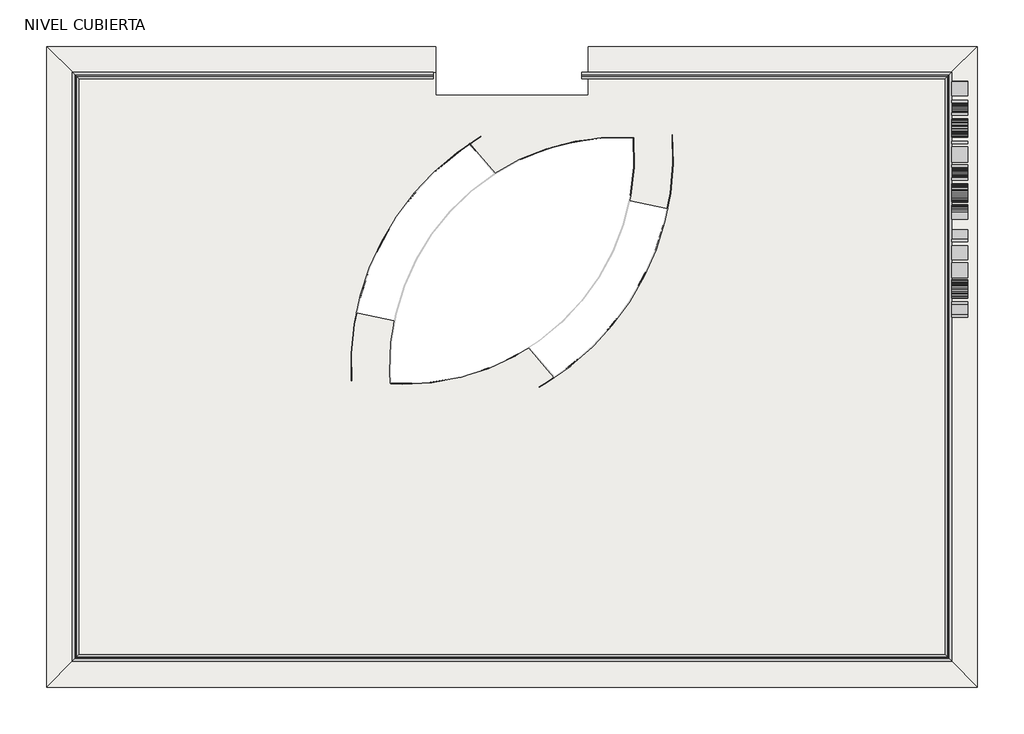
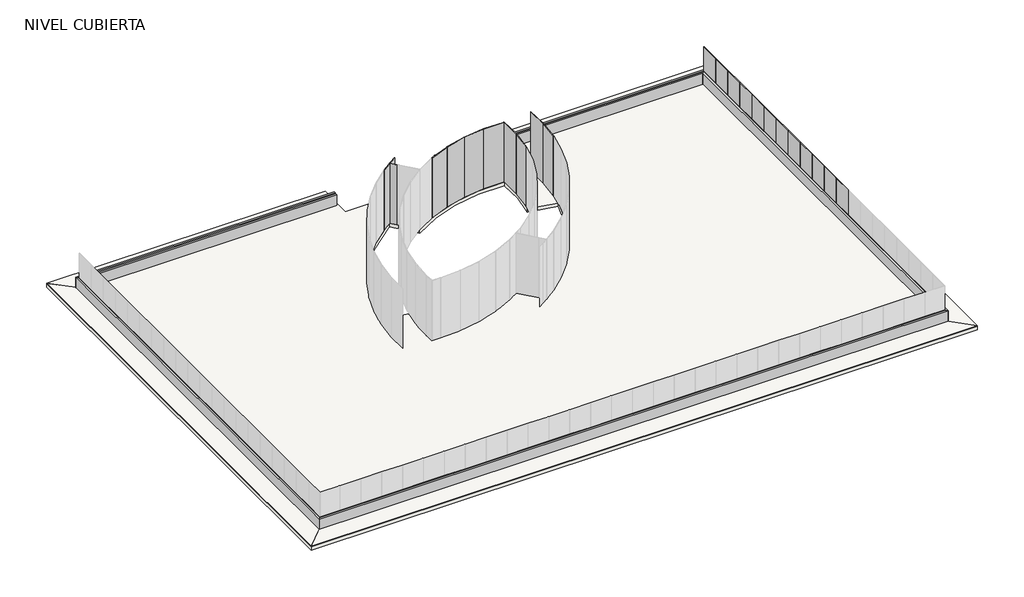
# One storey, part 2 of 2: 28 plates, 15 beams, 6 slabs, 1 proxy.
"""IFC4 building model written with IfcOpenShell, lengths in millimetres."""

from ifc_helpers import new_model, si_unit, point, frame, frame_2d, origin, place, context, project, spatial, polyline, circle_curve, trimmed, segment, composite_curve, outline, extrude, faceted_brep, transform, mapped, element, save
from components import system_panel_5ccbd7a3, system_panel_a79ef9cc, system_panel_8f9a12f6, system_panel_d16f8cfc

model = new_model("IFC4")

# Units and contexts
model_context = context("Model", 3, world=origin())
ifc_project = project(units=[si_unit("LENGTHUNIT", "METRE", prefix="MILLI")], contexts=[model_context])

# Site, building, storey
site = spatial("IfcSite", under=ifc_project)
building = spatial("IfcBuilding", under=site)
storey = spatial("IfcBuildingStorey", under=building, Name="NIVEL CUBIERTA", Elevation=13380.0)

# Beams
placement = place(None, origin())
element("IfcBeam", 1, ObjectType="H-A- VIGAS RECTANGULARES-CR : V. 20/50", at=placement, inside=storey, context=model_context, shape_type="Brep", body=[
    faceted_brep([(-20603.5934748, -7386.0860759, 13760.0), (-20603.5934748, -7386.0860759, 13860.0), (-20603.5934748, 10503.9139241, 13860.0), (-20603.5934748, 10503.9139241, 13760.0), (-20663.5934748, -7446.0860759, 13760.0), (-20663.5934748, 10563.9139241, 13760.0), (-20663.5934748, -7446.0860759, 13860.0), (-20663.5934748, 10563.9139241, 13860.0), (-20733.5934748, -7516.0860759, 13860.0), (-20733.5934748, 10633.9139241, 13860.0), (-20733.5934748, -7516.0860759, 13360.0), (-20733.5934748, 10633.9139241, 13360.0), (-20533.5934748, -7316.0860759, 13360.0), (-20533.5934748, 10433.9139241, 13360.0), (-20533.5934748, -7316.0860759, 13860.0), (-20533.5934748, 10433.9139241, 13860.0)], [[[0, 1, 2, 3]], [[4, 0, 3, 5]], [[6, 4, 5, 7]], [[8, 6, 7, 9]], [[10, 8, 9, 11]], [[12, 10, 11, 13]], [[14, 12, 13, 15]], [[1, 14, 15, 2]], [[1, 0, 4, 6, 8, 10, 12, 14]], [[2, 15, 13, 11, 9, 7, 5, 3]]]),
])
element("IfcBeam", 2, ObjectType="H-A- VIGAS RECTANGULARES-CR : V. 20/50", at=placement, inside=storey, context=model_context, shape_type="Brep", body=[
    faceted_brep([(-20663.5934748, -7446.0860759, 13860.0), (6296.4065252, -7446.0860759, 13860.0), (6296.4065252, -7446.0860759, 13760.0), (-20663.5934748, -7446.0860759, 13760.0), (6236.4065252, -7386.0860759, 13760.0), (-20603.5934748, -7386.0860759, 13760.0), (6236.4065252, -7386.0860759, 13860.0), (-20603.5934748, -7386.0860759, 13860.0), (6166.4065252, -7316.0860759, 13860.0), (-20533.5934748, -7316.0860759, 13860.0), (6166.4065252, -7316.0860759, 13360.0), (-20533.5934748, -7316.0860759, 13360.0), (6366.4065252, -7516.0860759, 13360.0), (-20733.5934748, -7516.0860759, 13360.0), (6366.4065252, -7516.0860759, 13860.0), (-20733.5934748, -7516.0860759, 13860.0)], [[[0, 1, 2, 3]], [[3, 2, 4, 5]], [[5, 4, 6, 7]], [[7, 6, 8, 9]], [[9, 8, 10, 11]], [[11, 10, 12, 13]], [[13, 12, 14, 15]], [[1, 0, 15, 14]], [[0, 3, 5, 7, 9, 11, 13, 15]], [[1, 14, 12, 10, 8, 6, 4, 2]]]),
])
element("IfcBeam", 3, ObjectType="H-A- VIGAS RECTANGULARES-CR : V. 20/50", at=placement, inside=storey, context=model_context, shape_type="Brep", body=[
    faceted_brep([(6296.4065252, -7446.0860759, 13860.0), (6296.4065252, 10563.9139241, 13860.0), (6296.4065252, 10563.9139241, 13760.0), (6296.4065252, -7446.0860759, 13760.0), (6236.4065252, 10503.9139241, 13760.0), (6236.4065252, -7386.0860759, 13760.0), (6236.4065252, 10503.9139241, 13860.0), (6236.4065252, -7386.0860759, 13860.0), (6166.4065252, 10433.9139241, 13860.0), (6166.4065252, -7316.0860759, 13860.0), (6166.4065252, 10433.9139241, 13360.0), (6166.4065252, -7316.0860759, 13360.0), (6366.4065252, 10633.9139241, 13360.0), (6366.4065252, -7516.0860759, 13360.0), (6366.4065252, 10633.9139241, 13860.0), (6366.4065252, -7516.0860759, 13860.0)], [[[0, 1, 2, 3]], [[3, 2, 4, 5]], [[5, 4, 6, 7]], [[7, 6, 8, 9]], [[9, 8, 10, 11]], [[11, 10, 12, 13]], [[13, 12, 14, 15]], [[1, 0, 15, 14]], [[0, 3, 5, 7, 9, 11, 13, 15]], [[1, 14, 12, 10, 8, 6, 4, 2]]]),
])
element("IfcBeam", 4, ObjectType="H-A- VIGAS RECTANGULARES-CR : V. 20/50", at=placement, inside=storey, context=model_context, shape_type="Brep", body=[
    faceted_brep([(-9608.5934748, 10563.9139241, 13860.0), (-9608.5934748, 10563.9139241, 13760.0), (-9608.5934748, 10503.9139241, 13760.0), (-9608.5934748, 10503.9139241, 13860.0), (-9608.5934748, 10433.9139241, 13860.0), (-9608.5934748, 10433.9139241, 13360.0), (-9608.5934748, 10633.9139241, 13360.0), (-9608.5934748, 10633.9139241, 13860.0), (-20663.5934748, 10563.9139241, 13860.0), (-20663.5934748, 10563.9139241, 13760.0), (-20603.5934748, 10503.9139241, 13760.0), (-20603.5934748, 10503.9139241, 13860.0), (-20533.5934748, 10433.9139241, 13860.0), (-20533.5934748, 10433.9139241, 13360.0), (-20733.5934748, 10633.9139241, 13360.0), (-20733.5934748, 10633.9139241, 13860.0)], [[[0, 1, 2, 3, 4, 5, 6, 7]], [[1, 0, 8, 9]], [[2, 1, 9, 10]], [[3, 2, 10, 11]], [[4, 3, 11, 12]], [[5, 4, 12, 13]], [[6, 5, 13, 14]], [[7, 6, 14, 15]], [[0, 7, 15, 8]], [[8, 15, 14, 13, 12, 11, 10, 9]]]),
])
element("IfcBeam", 5, ObjectType="H-A- VIGAS RECTANGULARES-CR : V. 20/50", at=placement, inside=storey, context=model_context, shape_type="Brep", body=[
    faceted_brep([(-5033.5934748, 10563.9139241, 13860.0), (-5033.5934748, 10633.9139241, 13860.0), (-5033.5934748, 10633.9139241, 13360.0), (-5033.5934748, 10433.9139241, 13360.0), (-5033.5934748, 10433.9139241, 13860.0), (-5033.5934748, 10503.9139241, 13860.0), (-5033.5934748, 10503.9139241, 13760.0), (-5033.5934748, 10563.9139241, 13760.0), (6296.4065252, 10563.9139241, 13760.0), (6296.4065252, 10563.9139241, 13860.0), (6236.4065252, 10503.9139241, 13760.0), (6236.4065252, 10503.9139241, 13860.0), (6166.4065252, 10433.9139241, 13860.0), (6166.4065252, 10433.9139241, 13360.0), (6366.4065252, 10633.9139241, 13360.0), (6366.4065252, 10633.9139241, 13860.0)], [[[0, 1, 2, 3, 4, 5, 6, 7]], [[0, 7, 8, 9]], [[7, 6, 10, 8]], [[6, 5, 11, 10]], [[5, 4, 12, 11]], [[4, 3, 13, 12]], [[3, 2, 14, 13]], [[2, 1, 15, 14]], [[1, 0, 9, 15]], [[9, 8, 10, 11, 12, 13, 14, 15]]]),
])
element("IfcBeam", 6, ObjectType="H-A- VIGAS RECTANGULARES : V. 40/30", at=placement, inside=storey, context=model_context, shape_type="SweptSolid", body=[
    extrude(outline(polyline([(-20378.5934748, 10421.2139241), (-19978.5934748, 10421.2139241), (-19978.5934748, 5233.9139241), (-20378.5934748, 5233.9139241), (-20378.5934748, 10421.2139241)])), frame((0.0, 0.0, 13060.0), z_axis=(0.0, 0.0, 1.0), x_axis=(1.0, 0.0, 0.0)), (0.0, 0.0, 1.0), 150.0),
])
element("IfcBeam", 7, ObjectType="H-A- VIGAS RECTANGULARES : V. 40/30", at=placement, inside=storey, context=model_context, shape_type="Brep", body=[
    faceted_brep([(5611.4065252, -7185.2015033, 13060.0), (6011.4065252, -7185.2015033, 13060.0), (6011.4065252, -7185.2015033, 13210.0), (5611.4065252, -7185.2015033, 13210.0), (6011.4065252, -166.0860759, 13060.0), (6011.4065252, -166.0860759, 13210.0), (5611.4065252, -6785.2015033, 13060.0), (5611.4065252, -166.0860759, 13060.0), (5611.4065252, -6785.2015033, 13210.0), (5611.4065252, -166.0860759, 13210.0)], [[[0, 1, 2, 3]], [[1, 4, 5, 2]], [[1, 0, 6, 7, 4]], [[7, 6, 0, 3, 8, 9]], [[3, 2, 5, 9, 8]], [[4, 7, 9, 5]]]),
])
element("IfcBeam", 8, ObjectType="H-A- VIGAS RECTANGULARES : V. 40/30", at=placement, inside=storey, context=model_context, shape_type="SweptSolid", body=[
    extrude(outline(polyline([(-1773.5934748, -6785.2015033), (5611.4065252, -6785.2015033), (5611.4065252, -7185.2015033), (-1773.5934748, -7185.2015033), (-1773.5934748, -6785.2015033)])), frame((0.0, 0.0, 13060.0), z_axis=(0.0, 0.0, 1.0), x_axis=(1.0, 0.0, 0.0)), (0.0, 0.0, 1.0), 150.0),
])
element("IfcBeam", 9, ObjectType="H-A- VIGAS RECTANGULARES : V. 40/30", at=placement, inside=storey, context=model_context, shape_type="Brep", body=[
    faceted_brep([(-20378.5934748, -7185.2015033, 13060.0), (-19978.5934748, -7185.2015033, 13060.0), (-19978.5934748, -7185.2015033, 13210.0), (-20378.5934748, -7185.2015033, 13210.0), (-20378.5934748, -166.0860759, 13060.0), (-20378.5934748, -166.0860759, 13210.0), (-19978.5934748, -166.0860759, 13060.0), (-19978.5934748, -6785.2015033, 13060.0), (-19978.5934748, -166.0860759, 13210.0), (-19978.5934748, -6785.2015033, 13210.0)], [[[0, 1, 2, 3]], [[4, 0, 3, 5]], [[1, 0, 4, 6, 7]], [[1, 7, 6, 8, 9, 2]], [[3, 2, 9, 8, 5]], [[6, 4, 5, 8]]]),
])
element("IfcBeam", 10, ObjectType="H-A- VIGAS RECTANGULARES : V. 40/30", at=placement, inside=storey, context=model_context, shape_type="SweptSolid", body=[
    extrude(outline(polyline([(-19978.5934748, -6785.2015033), (-12593.5934748, -6785.2015033), (-12593.5934748, -7185.2015033), (-19978.5934748, -7185.2015033), (-19978.5934748, -6785.2015033)])), frame((0.0, 0.0, 13060.0), z_axis=(0.0, 0.0, 1.0), x_axis=(1.0, 0.0, 0.0)), (0.0, 0.0, 1.0), 150.0),
])
element("IfcBeam", 11, ObjectType="H-A- VIGAS RECTANGULARES : V. 40/30", at=placement, inside=storey, context=model_context, shape_type="SweptSolid", body=[
    extrude(outline(polyline([(-7283.5934748, -6785.2015033), (-1773.5934748, -6785.2015033), (-1773.5934748, -7185.2015033), (-7283.5934748, -7185.2015033), (-7283.5934748, -6785.2015033)])), frame((0.0, 0.0, 13060.0), z_axis=(0.0, 0.0, 1.0), x_axis=(1.0, 0.0, 0.0)), (0.0, 0.0, 1.0), 150.0),
])
element("IfcBeam", 12, ObjectType="H-A- VIGAS RECTANGULARES : V. 40/30", at=placement, inside=storey, context=model_context, shape_type="SweptSolid", body=[
    extrude(outline(polyline([(-12593.5934748, -6785.2015033), (-7283.5934748, -6785.2015033), (-7283.5934748, -7185.2015033), (-12593.5934748, -7185.2015033), (-12593.5934748, -6785.2015033)])), frame((0.0, 0.0, 13060.0), z_axis=(0.0, 0.0, 1.0), x_axis=(1.0, 0.0, 0.0)), (0.0, 0.0, 1.0), 150.0),
])
element("IfcBeam", 13, ObjectType="H-A- VIGAS RECTANGULARES : V. 40/30", at=placement, inside=storey, context=model_context, shape_type="SweptSolid", body=[
    extrude(outline(polyline([(5611.4065252, 10421.2139241), (6011.4065252, 10421.2139241), (6011.4065252, 5233.9139241), (5611.4065252, 5233.9139241), (5611.4065252, 10421.2139241)])), frame((0.0, 0.0, 13060.0), z_axis=(0.0, 0.0, 1.0), x_axis=(1.0, 0.0, 0.0)), (0.0, 0.0, 1.0), 150.0),
])
element("IfcBeam", 14, ObjectType="H-A- VIGAS RECTANGULARES : V. 40/30", at=placement, inside=storey, context=model_context, shape_type="SweptSolid", body=[
    extrude(outline(polyline([(-20378.5934748, -166.0860759), (-20378.5934748, 5233.9139241), (-19978.5934748, 5233.9139241), (-19978.5934748, -166.0860759), (-20378.5934748, -166.0860759)])), frame((0.0, 0.0, 13060.0), z_axis=(0.0, 0.0, 1.0), x_axis=(1.0, 0.0, 0.0)), (0.0, 0.0, 1.0), 150.0),
])
element("IfcBeam", 15, ObjectType="H-A- VIGAS RECTANGULARES : V. 40/30", at=placement, inside=storey, context=model_context, shape_type="SweptSolid", body=[
    extrude(outline(polyline([(6011.4065252, 5233.9139241), (6011.4065252, -166.0860759), (5611.4065252, -166.0860759), (5611.4065252, 5233.9139241), (6011.4065252, 5233.9139241)])), frame((0.0, 0.0, 13060.0), z_axis=(0.0, 0.0, 1.0), x_axis=(1.0, 0.0, 0.0)), (0.0, 0.0, 1.0), 150.0),
])

# Proxy
element("IfcBuildingElementProxy", 16, Name="600mm Arial", ObjectType="600mm Arial", at=placement, inside=storey, context=model_context, shape_type="SweptSolid", body=[
    extrude(outline(polyline([(3095.5454979, 13541.4118799), (3095.5454979, 14144.1497408), (3170.8877305, 14144.1497408), (3170.8877305, 13899.2874848), (3491.0922191, 13899.2874848), (3491.0922191, 14144.1497408), (3566.4344518, 14144.1497408), (3566.4344518, 13541.4118799), (3491.0922191, 13541.4118799), (3491.0922191, 13823.9452522), (3170.8877305, 13823.9452522), (3170.8877305, 13541.4118799), (3095.5454979, 13541.4118799)])), frame((6366.4065252, 0.0, 0.0), z_axis=(1.0, 0.0, 0.0), x_axis=(0.0, 1.0, 0.0)), (0.0, 0.0, 1.0), 500.0),
    extrude(outline(polyline([(3670.0300216, 13834.8345592), (3675.0516108, 13905.5322817), (3690.1163785, 13968.1182061), (3715.2243247, 14022.5923325), (3731.5444897, 14046.7874715), (3750.3754493, 14068.954661), (3793.463628, 14105.9727867), (3842.3827363, 14132.4143051), (3897.1327743, 14148.2792162), (3957.7137418, 14153.5675199), (3998.2635347, 14151.0843164), (4036.7715826, 14143.634706), (4073.2378854, 14131.2186886), (4107.6624431, 14113.8362644), (4139.0795654, 14092.011665), (4166.5235623, 14066.2691224), (4189.9944336, 14036.6086365), (4209.4921793, 14003.0302074), (4224.8144644, 13966.2971902), (4235.7589538, 13927.17294), (4242.3256474, 13885.6574569), (4244.5145453, 13841.7507407), (4242.2106843, 13797.2646105), (4235.2991013, 13755.1881073), (4223.7797963, 13715.5212311), (4207.6527694, 13678.2639821), (4187.299698, 13644.4004444), (4163.1022597, 13614.9147025), (4135.0604547, 13589.8067563), (4103.1742827, 13569.0766059), (4068.6991412, 13552.8530099), (4032.8904275, 13541.2647271), (3995.7481416, 13534.3117574), (3957.2722834, 13531.9941008), (3916.0143177, 13534.5554792), (3877.0004321, 13542.2396144), (3840.2306267, 13555.0465063), (3805.7049014, 13572.9761551), (3774.3245672, 13595.3341833), (3746.990935, 13621.4262138), (3723.7040047, 13651.2522466), (3704.4637763, 13684.8122816), (3689.3990086, 13720.7589511), (3678.6384603, 13757.7448871), (3672.1821313, 13795.7700899), (3670.0300216, 13834.8345592)]), holes=[polyline([(3745.3722542, 13834.0987952), (3749.1384461, 13784.1496173), (3760.4370219, 13739.8106399), (3779.2679815, 13701.0818628), (3805.631325, 13667.9632862), (3837.6784453, 13641.4389944), (3873.5607354, 13622.4930716), (3913.2781953, 13611.125518), (3956.830825, 13607.3363334), (4001.1284158, 13611.1623062), (4041.3149252, 13622.6402244), (4077.3903534, 13641.7700882), (4109.3547002, 13668.5518974), (4135.5249057, 13702.3694498), (4154.2179096, 13742.606543), (4165.4337119, 13789.2631771), (4169.1723127, 13842.3393519), (4167.572026, 13876.8190919), (4162.7711659, 13909.0363577), (4154.7697325, 13938.9911491), (4143.5677258, 13966.6834663), (4129.2893059, 13991.7500258), (4112.0586329, 14013.827544), (4091.8757069, 14032.916021), (4068.740528, 14049.0154568), (4043.3704659, 14061.7947576), (4016.4828906, 14070.9228296), (3988.077802, 14076.3996728), (3958.1552002, 14078.2252872), (3916.1154852, 14074.7074157), (3877.1107967, 14064.1538009), (3841.1411346, 14046.564443), (3808.206499, 14021.939342), (3780.7165169, 13989.0920783), (3761.0808154, 13946.8362327), (3749.2993945, 13895.171805), (3745.3722542, 13834.0987952)])]), frame((6366.4065252, 0.0, 0.0), z_axis=(1.0, 0.0, 0.0), x_axis=(0.0, 1.0, 0.0)), (0.0, 0.0, 1.0), 500.0),
    extrude(outline(polyline([(4498.7945803, 13541.4118799), (4498.7945803, 14068.8075082), (4301.0212197, 14068.8075082), (4301.0212197, 14144.1497408), (4771.9101736, 14144.1497408), (4771.9101736, 14068.8075082), (4574.1368129, 14068.8075082), (4574.1368129, 13541.4118799), (4498.7945803, 13541.4118799)])), frame((6366.4065252, 0.0, 0.0), z_axis=(1.0, 0.0, 0.0), x_axis=(0.0, 1.0, 0.0)), (0.0, 0.0, 1.0), 500.0),
    extrude(outline(polyline([(4856.6701852, 13541.4118799), (4856.6701852, 14144.1497408), (5289.8880228, 14144.1497408), (5289.8880228, 14068.8075082), (4932.0124179, 14068.8075082), (4932.0124179, 13889.8697057), (5271.0524646, 13889.8697057), (5271.0524646, 13814.5274731), (4932.0124179, 13814.5274731), (4932.0124179, 13616.7541125), (5299.3058018, 13616.7541125), (5299.3058018, 13541.4118799), (4856.6701852, 13541.4118799)])), frame((6366.4065252, 0.0, 0.0), z_axis=(1.0, 0.0, 0.0), x_axis=(0.0, 1.0, 0.0)), (0.0, 0.0, 1.0), 500.0),
    extrude(outline(polyline([(5412.3191508, 13541.4118799), (5412.3191508, 14144.1497408), (5487.6613834, 14144.1497408), (5487.6613834, 13616.7541125), (5789.0303138, 13616.7541125), (5789.0303138, 13541.4118799), (5412.3191508, 13541.4118799)])), frame((6366.4065252, 0.0, 0.0), z_axis=(1.0, 0.0, 0.0), x_axis=(0.0, 1.0, 0.0)), (0.0, 0.0, 1.0), 500.0),
    extrude(outline(polyline([(6109.2348024, 13541.4118799), (6109.2348024, 14144.1497408), (6339.2346258, 14144.1497408), (6402.4919349, 14139.7167627), (6451.8800927, 14126.4178286), (6471.9572526, 14116.3608546), (6489.73515, 14103.9218446), (6505.213785, 14089.1007987), (6518.3931575, 14071.8977169), (6536.4377693, 14034.2266006), (6542.4526399, 13994.7896507), (6537.3942625, 13958.4980919), (6522.2191302, 13924.3770369), (6496.8168784, 13894.523413), (6461.0771426, 13871.0341476), (6483.8168484, 13861.340457), (6503.7698481, 13848.7404987), (6520.9361417, 13833.2342726), (6535.3157292, 13814.8217787), (6546.6786844, 13794.0640371), (6554.7950809, 13771.5220679), (6559.6649188, 13747.1958709), (6561.2881981, 13721.0854463), (6556.8552201, 13679.0549284), (6543.5562859, 13640.077831), (6523.7090523, 13606.9316632), (6499.6311757, 13582.3939341), (6470.1454338, 13564.6252338), (6434.0746042, 13551.7861521), (6390.2414644, 13544.0054479), (6337.4687922, 13541.4118799), (6109.2348024, 13541.4118799)]), holes=[polyline([(6184.577035, 13899.2874848), (6322.1649012, 13899.2874848), (6370.2838662, 13900.9061656), (6402.510329, 13905.7622079), (6430.6349075, 13916.9274265), (6450.8500231, 13933.6476631), (6463.0453113, 13955.6654005), (6467.1104073, 13982.7231213), (6463.3212228, 14008.9898957), (6451.9536691, 14031.8721558), (6433.5227812, 14049.7328267), (6408.5435937, 14060.9348335), (6370.2102898, 14066.8393395), (6311.7170526, 14068.8075082), (6184.577035, 14068.8075082), (6184.577035, 13899.2874848)]), polyline([(6184.577035, 13616.7541125), (6339.087473, 13616.7541125), (6395.0055363, 13619.6971685), (6420.959611, 13626.2270739), (6442.3151609, 13636.1047054), (6459.679191, 13650.2497682), (6473.6587068, 13669.581967), (6482.8741508, 13693.2367793), (6485.9459655, 13720.3496823), (6482.3407219, 13751.8403811), (6471.5249913, 13778.916496), (6452.6342508, 13800.0881048), (6424.8039779, 13813.8652855), (6385.3854221, 13821.4252605), (6331.7298331, 13823.9452522), (6184.577035, 13823.9452522), (6184.577035, 13616.7541125)])]), frame((6366.4065252, 0.0, 0.0), z_axis=(1.0, 0.0, 0.0), x_axis=(0.0, 1.0, 0.0)), (0.0, 0.0, 1.0), 500.0),
    extrude(outline(polyline([(6636.6304307, 13834.8345592), (6641.6520199, 13905.5322817), (6656.7167876, 13968.1182061), (6681.8247338, 14022.5923325), (6698.1448988, 14046.7874715), (6716.9758585, 14068.954661), (6760.0640371, 14105.9727867), (6808.9831454, 14132.4143051), (6863.7331834, 14148.2792162), (6924.3141509, 14153.5675199), (6964.8639439, 14151.0843164), (7003.3719917, 14143.634706), (7039.8382945, 14131.2186886), (7074.2628522, 14113.8362644), (7105.6799746, 14092.011665), (7133.1239714, 14066.2691224), (7156.5948427, 14036.6086365), (7176.0925884, 14003.0302074), (7191.4148735, 13966.2971902), (7202.3593629, 13927.17294), (7208.9260565, 13885.6574569), (7211.1149544, 13841.7507407), (7208.8110934, 13797.2646105), (7201.8995104, 13755.1881073), (7190.3802054, 13715.5212311), (7174.2531785, 13678.2639821), (7153.9001071, 13644.4004444), (7129.7026688, 13614.9147025), (7101.6608638, 13589.8067563), (7069.7746918, 13569.0766059), (7035.2995504, 13552.8530099), (6999.4908366, 13541.2647271), (6962.3485507, 13534.3117574), (6923.8726925, 13531.9941008), (6882.6147268, 13534.5554792), (6843.6008412, 13542.2396144), (6806.8310358, 13555.0465063), (6772.3053105, 13572.9761551), (6740.9249763, 13595.3341833), (6713.5913441, 13621.4262138), (6690.3044138, 13651.2522466), (6671.0641855, 13684.8122816), (6655.9994178, 13720.7589511), (6645.2388694, 13757.7448871), (6638.7825404, 13795.7700899), (6636.6304307, 13834.8345592)]), holes=[polyline([(6711.9726633, 13834.0987952), (6715.7388552, 13784.1496173), (6727.037431, 13739.8106399), (6745.8683906, 13701.0818628), (6772.2317341, 13667.9632862), (6804.2788544, 13641.4389944), (6840.1611445, 13622.4930716), (6879.8786044, 13611.125518), (6923.4312341, 13607.3363334), (6967.7288249, 13611.1623062), (7007.9153343, 13622.6402244), (7043.9907625, 13641.7700882), (7075.9551093, 13668.5518974), (7102.1253148, 13702.3694498), (7120.8183187, 13742.606543), (7132.034121, 13789.2631771), (7135.7727218, 13842.3393519), (7134.1724351, 13876.8190919), (7129.371575, 13909.0363577), (7121.3701416, 13938.9911491), (7110.1681349, 13966.6834663), (7095.889715, 13991.7500258), (7078.659042, 14013.827544), (7058.476116, 14032.916021), (7035.3409371, 14049.0154568), (7009.970875, 14061.7947576), (6983.0832997, 14070.9228296), (6954.6782111, 14076.3996728), (6924.7556093, 14078.2252872), (6882.7158943, 14074.7074157), (6843.7112058, 14064.1538009), (6807.7415437, 14046.564443), (6774.8069081, 14021.939342), (6747.316926, 13989.0920783), (6727.6812245, 13946.8362327), (6715.8998036, 13895.171805), (6711.9726633, 13834.0987952)])]), frame((6366.4065252, 0.0, 0.0), z_axis=(1.0, 0.0, 0.0), x_axis=(0.0, 1.0, 0.0)), (0.0, 0.0, 1.0), 500.0),
    extrude(outline(polyline([(7710.2572454, 14144.1497408), (7785.599478, 14144.1497408), (7785.599478, 13796.4276789), (7780.4859183, 13714.9969993), (7774.0939686, 13681.3036071), (7765.1452391, 13652.2915132), (7752.8671775, 13626.8616703), (7736.4872317, 13603.9150309), (7716.0054016, 13583.4515949), (7691.4216873, 13565.4713624), (7662.7084976, 13550.8250604), (7629.8382413, 13540.3634162), (7592.8109185, 13534.0864297), (7551.6265291, 13531.9941008), (7511.4584138, 13533.8151167), (7475.1254682, 13539.2781643), (7442.6276925, 13548.3832437), (7413.9650865, 13561.1303548), (7389.1330518, 13577.3309582), (7368.1269899, 13596.7965143), (7350.9469007, 13619.527023), (7337.5927843, 13645.5224845), (7327.5817955, 13675.6750125), (7320.4310892, 13710.876721), (7316.1406655, 13751.1276098), (7314.7105242, 13796.4276789), (7314.7105242, 14144.1497408), (7390.0527568, 14144.1497408), (7390.0527568, 13799.0764293), (7393.768365, 13731.3677481), (7404.9151894, 13684.2236704), (7413.679978, 13666.8458447), (7425.111911, 13651.5741433), (7439.2109884, 13638.4085664), (7455.9772104, 13627.349114), (7496.2235006, 13612.3395286), (7544.5631948, 13607.3363334), (7586.087875, 13609.8103398), (7621.1930144, 13617.2323591), (7649.878613, 13629.6023912), (7672.1446707, 13646.9204361), (7688.8189222, 13671.2742242), (7700.7291018, 13704.7514857), (7707.8752095, 13747.3522208), (7710.2572454, 13799.0764293), (7710.2572454, 14144.1497408)])), frame((6366.4065252, 0.0, 0.0), z_axis=(1.0, 0.0, 0.0), x_axis=(0.0, 1.0, 0.0)), (0.0, 0.0, 1.0), 500.0),
    extrude(outline(polyline([(8068.1328503, 13541.4118799), (8068.1328503, 14068.8075082), (7870.3594897, 14068.8075082), (7870.3594897, 14144.1497408), (8341.2484436, 14144.1497408), (8341.2484436, 14068.8075082), (8143.4750829, 14068.8075082), (8143.4750829, 13541.4118799), (8068.1328503, 13541.4118799)])), frame((6366.4065252, 0.0, 0.0), z_axis=(1.0, 0.0, 0.0), x_axis=(0.0, 1.0, 0.0)), (0.0, 0.0, 1.0), 500.0),
    extrude(outline(polyline([(6866.4065252, 8510.7684669), (6866.4065252, 8435.4262343), (6366.4065252, 8435.4262343), (6366.4065252, 8510.7684669), (6866.4065252, 8510.7684669)])), frame((0.0, 0.0, 13541.4118799), z_axis=(0.0, 0.0, 1.0), x_axis=(1.0, 0.0, 0.0)), (0.0, 0.0, 1.0), 602.7378609),
    extrude(outline(polyline([(9114.2420918, 13613.6639037), (9162.9128798, 13576.471034), (9207.6841186, 13550.829659), (9187.3770325, 13495.6473597), (9125.2417635, 13524.4525199), (9063.3272237, 13566.13355), (9029.3441244, 13551.197541), (8993.6135856, 13540.5289631), (8956.1356073, 13534.1278164), (8916.9101896, 13531.9941008), (8877.4456486, 13534.4543116), (8839.8389116, 13541.8349442), (8804.0899787, 13554.1359984), (8770.1988499, 13571.3574743), (8739.135814, 13593.0349209), (8711.8711596, 13618.7038871), (8688.4048868, 13648.3643729), (8668.7369957, 13682.0163784), (8653.1893828, 13718.7907824), (8642.0839451, 13757.8184635), (8635.4206825, 13799.0994219), (8633.1995949, 13842.6336575), (8635.4160839, 13886.0759226), (8642.065551, 13927.5224279), (8653.1479961, 13966.9731734), (8668.6634193, 14004.428159), (8688.2715296, 14038.7101624), (8711.6320363, 14068.6419613), (8738.7449393, 14094.2235555), (8769.6102387, 14115.4549452), (8803.3266236, 14132.1291966), (8838.992783, 14144.0393762), (8876.608717, 14151.1854839), (8916.1744256, 14153.5675199), (8956.0758265, 14151.1303016), (8993.9630735, 14143.818647), (9029.8361666, 14131.6325559), (9063.6951057, 14114.5720284), (9094.5925948, 14093.124508), (9121.5813376, 14067.7774386), (9144.6613343, 14038.53082), (9163.8325848, 14005.3846522), (9178.8973525, 13969.1666698), (9189.6579008, 13930.7046072), (9196.1142298, 13889.9984644), (9198.2663395, 13847.0482415), (9193.0424152, 13777.4817562), (9177.3706422, 13715.3464872), (9165.5892213, 13687.0839529), (9151.1406559, 13660.7160109), (9134.0249461, 13636.2426612), (9114.2420918, 13613.6639037)]), holes=[polyline([(8937.6587341, 13713.8749592), (8970.8600842, 13703.0684256), (9001.0080137, 13689.9258413), (9028.1025227, 13674.4472064), (9052.143611, 13656.6325208), (9083.110078, 13691.5813103), (9105.2289829, 13734.3291982), (9118.5003259, 13784.8761843), (9122.9241069, 13843.2222687), (9121.3606084, 13877.4950751), (9116.670113, 13909.5329984), (9108.8526206, 13939.3360385), (9097.9081312, 13966.9041955), (9083.951608, 13991.8741859), (9067.0980141, 14013.8827263), (9047.3473495, 14032.9298166), (9024.6996142, 14049.0154568), (8999.872178, 14061.7947576), (8973.582411, 14070.9228296), (8945.830313, 14076.3996728), (8916.615884, 14078.2252872), (8873.647267, 14074.5326717), (8834.5046227, 14063.4548251), (8799.1879512, 14044.9917475), (8767.6972524, 14019.1434388), (8741.816754, 13985.9650814), (8723.3306837, 13945.5118575), (8712.2390416, 13897.7837671), (8708.5418275, 13842.7808103), (8712.1976549, 13789.2125933), (8723.1651368, 13742.2570551), (8741.4442735, 13701.9141959), (8767.0350648, 13668.1840154), (8798.3096329, 13641.5631545), (8833.6401, 13622.5482539), (8873.0264661, 13611.1393135), (8916.4687312, 13607.3363334), (8958.2969141, 13611.1990944), (8997.549923, 13622.7873772), (8958.9591017, 13642.836946), (8918.2345648, 13656.1910624), (8937.6587341, 13713.8749592)])]), frame((6366.4065252, 0.0, 0.0), z_axis=(1.0, 0.0, 0.0), x_axis=(0.0, 1.0, 0.0)), (0.0, 0.0, 1.0), 500.0),
    extrude(outline(polyline([(9706.8264097, 14144.1497408), (9782.1686423, 14144.1497408), (9782.1686423, 13796.4276789), (9777.0550825, 13714.9969993), (9770.6631329, 13681.3036071), (9761.7144033, 13652.2915132), (9749.4363417, 13626.8616703), (9733.0563959, 13603.9150309), (9712.5745658, 13583.4515949), (9687.9908515, 13565.4713624), (9659.2776618, 13550.8250604), (9626.4074055, 13540.3634162), (9589.3800827, 13534.0864297), (9548.1956933, 13531.9941008), (9508.027578, 13533.8151167), (9471.6946324, 13539.2781643), (9439.1968567, 13548.3832437), (9410.5342507, 13561.1303548), (9385.7022161, 13577.3309582), (9364.6961541, 13596.7965143), (9347.516065, 13619.527023), (9334.1619485, 13645.5224845), (9324.1509597, 13675.6750125), (9317.0002535, 13710.876721), (9312.7098297, 13751.1276098), (9311.2796884, 13796.4276789), (9311.2796884, 14144.1497408), (9386.6219211, 14144.1497408), (9386.6219211, 13799.0764293), (9390.3375292, 13731.3677481), (9401.4843537, 13684.2236704), (9410.2491422, 13666.8458447), (9421.6810752, 13651.5741433), (9435.7801527, 13638.4085664), (9452.5463746, 13627.349114), (9492.7926649, 13612.3395286), (9541.132359, 13607.3363334), (9582.6570392, 13609.8103398), (9617.7621786, 13617.2323591), (9646.4477772, 13629.6023912), (9668.713835, 13646.9204361), (9685.3880864, 13671.2742242), (9697.298266, 13704.7514857), (9704.4443737, 13747.3522208), (9706.8264097, 13799.0764293), (9706.8264097, 14144.1497408)])), frame((6366.4065252, 0.0, 0.0), z_axis=(1.0, 0.0, 0.0), x_axis=(0.0, 1.0, 0.0)), (0.0, 0.0, 1.0), 500.0),
    extrude(outline(polyline([(9914.0175493, 13541.4118799), (9914.0175493, 14144.1497408), (10347.2353869, 14144.1497408), (10347.2353869, 14068.8075082), (9989.3597819, 14068.8075082), (9989.3597819, 13889.8697057), (10328.3998287, 13889.8697057), (10328.3998287, 13814.5274731), (9989.3597819, 13814.5274731), (9989.3597819, 13616.7541125), (10356.6531659, 13616.7541125), (10356.6531659, 13541.4118799), (9914.0175493, 13541.4118799)])), frame((6366.4065252, 0.0, 0.0), z_axis=(1.0, 0.0, 0.0), x_axis=(0.0, 1.0, 0.0)), (0.0, 0.0, 1.0), 500.0),
])

# Plates
system_panel_shape = system_panel_5ccbd7a3(model_context)
element("IfcPlate", 17, ObjectType="System Panel : CR-BARANDA", at=placement, inside=storey, context=model_context, shape_type="MappedRepresentation", body=[
    mapped(system_panel_shape, transform((6266.4065252, 10083.9139239, 13880.0), x_axis=(0.0, -1.0, 0.0), y_axis=(1.0, 0.0, 0.0), z_axis=(0.0, 0.0, 1.0))),
])
element("IfcPlate", 18, ObjectType="System Panel : CR-BARANDA", at=placement, inside=storey, context=model_context, shape_type="MappedRepresentation", body=[
    mapped(system_panel_shape, transform((6266.4065252, 9183.9139237, 13880.0), x_axis=(0.0, -1.0, 0.0), y_axis=(1.0, 0.0, 0.0), z_axis=(0.0, 0.0, 1.0))),
])
element("IfcPlate", 19, ObjectType="System Panel : CR-BARANDA", at=placement, inside=storey, context=model_context, shape_type="MappedRepresentation", body=[
    mapped(system_panel_shape, transform((6266.4065252, 8283.9139237, 13880.0), x_axis=(0.0, -1.0, 0.0), y_axis=(1.0, 0.0, 0.0), z_axis=(0.0, 0.0, 1.0))),
])
element("IfcPlate", 20, ObjectType="System Panel : CR-BARANDA", at=placement, inside=storey, context=model_context, shape_type="MappedRepresentation", body=[
    mapped(system_panel_shape, transform((6266.4065252, 7383.9139237, 13880.0), x_axis=(0.0, -1.0, 0.0), y_axis=(1.0, 0.0, 0.0), z_axis=(0.0, 0.0, 1.0))),
])
element("IfcPlate", 21, ObjectType="System Panel : CR-BARANDA", at=placement, inside=storey, context=model_context, shape_type="MappedRepresentation", body=[
    mapped(system_panel_shape, transform((6266.4065252, 6483.9139237, 13880.0), x_axis=(0.0, -1.0, 0.0), y_axis=(1.0, 0.0, 0.0), z_axis=(0.0, 0.0, 1.0))),
])
element("IfcPlate", 22, ObjectType="System Panel : CR-BARANDA", at=placement, inside=storey, context=model_context, shape_type="MappedRepresentation", body=[
    mapped(system_panel_shape, transform((6266.4065252, 5583.9139237, 13880.0), x_axis=(0.0, -1.0, 0.0), y_axis=(1.0, 0.0, 0.0), z_axis=(0.0, 0.0, 1.0))),
])
element("IfcPlate", 23, ObjectType="System Panel : CR-BARANDA", at=placement, inside=storey, context=model_context, shape_type="MappedRepresentation", body=[
    mapped(system_panel_shape, transform((6266.4065252, 4683.9139237, 13880.0), x_axis=(0.0, -1.0, 0.0), y_axis=(1.0, 0.0, 0.0), z_axis=(0.0, 0.0, 1.0))),
])
element("IfcPlate", 24, ObjectType="System Panel : CR-BARANDA", at=placement, inside=storey, context=model_context, shape_type="MappedRepresentation", body=[
    mapped(system_panel_shape, transform((6266.4065252, 3783.9139237, 13880.0), x_axis=(0.0, -1.0, 0.0), y_axis=(1.0, 0.0, 0.0), z_axis=(0.0, 0.0, 1.0))),
])
element("IfcPlate", 25, ObjectType="System Panel : CR-BARANDA", at=placement, inside=storey, context=model_context, shape_type="MappedRepresentation", body=[
    mapped(system_panel_shape, transform((6266.4065252, 2883.9139237, 13880.0), x_axis=(0.0, -1.0, 0.0), y_axis=(1.0, 0.0, 0.0), z_axis=(0.0, 0.0, 1.0))),
])
element("IfcPlate", 26, ObjectType="System Panel : CR-BARANDA", at=placement, inside=storey, context=model_context, shape_type="MappedRepresentation", body=[
    mapped(system_panel_shape, transform((6266.4065252, 1983.9139237, 13880.0), x_axis=(0.0, -1.0, 0.0), y_axis=(1.0, 0.0, 0.0), z_axis=(0.0, 0.0, 1.0))),
])
element("IfcPlate", 27, ObjectType="System Panel : CR-BARANDA", at=placement, inside=storey, context=model_context, shape_type="MappedRepresentation", body=[
    mapped(system_panel_shape, transform((6266.4065252, 1083.9139237, 13880.0), x_axis=(0.0, -1.0, 0.0), y_axis=(1.0, 0.0, 0.0), z_axis=(0.0, 0.0, 1.0))),
])
element("IfcPlate", 28, ObjectType="System Panel : CR-BARANDA", at=placement, inside=storey, context=model_context, shape_type="MappedRepresentation", body=[
    mapped(system_panel_shape, transform((6266.4065252, 183.9139237, 13880.0), x_axis=(0.0, -1.0, 0.0), y_axis=(1.0, 0.0, 0.0), z_axis=(0.0, 0.0, 1.0))),
])
system_panel_2_shape = system_panel_a79ef9cc(model_context)
element("IfcPlate", 29, ObjectType="System Panel : CR-BARANDA", at=placement, inside=storey, context=model_context, shape_type="MappedRepresentation", body=[
    mapped(system_panel_2_shape, transform((-8389.9387294, 8323.370618, 13380.0), x_axis=(-0.6464171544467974, 0.7629841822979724, 0.0), y_axis=(-0.7629841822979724, -0.6464171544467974, 0.0), z_axis=(0.0, 0.0, 1.0))),
])
system_panel_3_shape = system_panel_8f9a12f6(model_context)
element("IfcPlate", 30, ObjectType="System Panel : CR-BARANDA", at=placement, inside=storey, context=model_context, shape_type="MappedRepresentation", body=[
    mapped(system_panel_3_shape, transform((-3889.1158289, 8621.3139577, 13380.0), x_axis=(-0.9999985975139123, 0.0016748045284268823, 0.0), y_axis=(-0.0016748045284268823, -0.9999985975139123, 0.0), z_axis=(0.0, 0.0, 1.0))),
])
element("IfcPlate", 31, ObjectType="System Panel : CR-BARANDA", at=placement, inside=storey, context=model_context, shape_type="MappedRepresentation", body=[
    mapped(system_panel_3_shape, transform((-3889.1158289, 8621.3139577, 13380.0), x_axis=(-0.9999985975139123, 0.0016748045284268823, 0.0), y_axis=(-0.0016748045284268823, -0.9999985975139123, 0.0), z_axis=(0.0, 0.0, 1.0))),
])
element("IfcPlate", 32, ObjectType="System Panel : CR-BARANDA", at=placement, inside=storey, context=model_context, shape_type="MappedRepresentation", body=[
    mapped(system_panel_3_shape, transform((-8516.6647466, 8408.3702848, 13380.0), x_axis=(-0.8281799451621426, -0.5604622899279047, 0.0), y_axis=(0.5604622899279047, -0.8281799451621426, 0.0), z_axis=(0.0, 0.0, 1.0))),
])
system_panel_4_shape = system_panel_d16f8cfc(model_context)
element("IfcPlate", 33, ObjectType="System Panel : CR-BARANDA", at=placement, inside=storey, context=model_context, shape_type="MappedRepresentation", body=[
    mapped(system_panel_4_shape, transform((-4785.5416487, 8565.4687941, 13380.0), x_axis=(-0.9920587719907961, -0.1257751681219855, 0.0), y_axis=(0.1257751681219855, -0.9920587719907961, 0.0), z_axis=(0.0, 0.0, 1.0))),
])
element("IfcPlate", 34, ObjectType="System Panel : CR-BARANDA", at=placement, inside=storey, context=model_context, shape_type="MappedRepresentation", body=[
    mapped(system_panel_4_shape, transform((-5667.541953, 8395.8415861, 13380.0), x_axis=(-0.9679419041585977, -0.25117418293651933, 0.0), y_axis=(0.25117418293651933, -0.9679419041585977, 0.0), z_axis=(0.0, 0.0, 1.0))),
])
element("IfcPlate", 35, ObjectType="System Panel : CR-BARANDA", at=placement, inside=storey, context=model_context, shape_type="MappedRepresentation", body=[
    mapped(system_panel_4_shape, transform((-6520.7343753, 8115.1983662, 13380.0), x_axis=(-0.9280412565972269, -0.37247741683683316, 0.0), y_axis=(0.37247741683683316, -0.9280412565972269, 0.0), z_axis=(0.0, 0.0, 1.0))),
])
element("IfcPlate", 36, ObjectType="System Panel : CR-BARANDA", at=placement, inside=storey, context=model_context, shape_type="MappedRepresentation", body=[
    mapped(system_panel_4_shape, transform((-4785.5416487, 8565.4687941, 13380.0), x_axis=(-0.9920587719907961, -0.1257751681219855, 0.0), y_axis=(0.1257751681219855, -0.9920587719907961, 0.0), z_axis=(0.0, 0.0, 1.0))),
])
element("IfcPlate", 37, ObjectType="System Panel : CR-BARANDA", at=placement, inside=storey, context=model_context, shape_type="MappedRepresentation", body=[
    mapped(system_panel_4_shape, transform((-5667.541953, 8395.8415861, 13380.0), x_axis=(-0.9679419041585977, -0.25117418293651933, 0.0), y_axis=(0.25117418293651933, -0.9679419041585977, 0.0), z_axis=(0.0, 0.0, 1.0))),
])
element("IfcPlate", 38, ObjectType="System Panel : CR-BARANDA", at=placement, inside=storey, context=model_context, shape_type="MappedRepresentation", body=[
    mapped(system_panel_4_shape, transform((-6520.7343753, 8115.1983662, 13380.0), x_axis=(-0.9280412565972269, -0.37247741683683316, 0.0), y_axis=(0.37247741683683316, -0.9280412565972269, 0.0), z_axis=(0.0, 0.0, 1.0))),
])
element("IfcPlate", 39, ObjectType="System Panel : CR-BARANDA", at=placement, inside=storey, context=model_context, shape_type="MappedRepresentation", body=[
    mapped(system_panel_3_shape, transform((-3433.3235969, 8170.5975795, 13380.0), x_axis=(0.012873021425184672, -0.9999171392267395, 0.0), y_axis=(0.9999171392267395, 0.012873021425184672, 0.0), z_axis=(0.0, 0.0, 1.0))),
])
element("IfcPlate", 40, ObjectType="System Panel : CR-BARANDA", at=placement, inside=storey, context=model_context, shape_type="MappedRepresentation", body=[
    mapped(system_panel_3_shape, transform((-3433.3235969, 8170.5975795, 13380.0), x_axis=(0.012873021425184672, -0.9999171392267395, 0.0), y_axis=(0.9999171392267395, 0.012873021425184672, 0.0), z_axis=(0.0, 0.0, 1.0))),
])
element("IfcPlate", 41, ObjectType="System Panel : CR-BARANDA", at=placement, inside=storey, context=model_context, shape_type="MappedRepresentation", body=[
    mapped(system_panel_3_shape, transform((-2232.6706866, 8262.698955, 13380.0), x_axis=(0.022177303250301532, -0.9997540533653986, 0.0), y_axis=(0.9997540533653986, 0.022177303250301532, 0.0), z_axis=(0.0, 0.0, 1.0))),
])
element("IfcPlate", 42, ObjectType="System Panel : CR-BARANDA", at=placement, inside=storey, context=model_context, shape_type="MappedRepresentation", body=[
    mapped(system_panel_4_shape, transform((-3479.1267798, 7273.6025956, 13380.0), x_axis=(-0.11465787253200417, -0.9934050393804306, 0.0), y_axis=(0.9934050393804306, -0.11465787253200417, 0.0), z_axis=(0.0, 0.0, 1.0))),
])
element("IfcPlate", 43, ObjectType="System Panel : CR-BARANDA", at=placement, inside=storey, context=model_context, shape_type="MappedRepresentation", body=[
    mapped(system_panel_4_shape, transform((-3479.1267798, 7273.6025956, 13380.0), x_axis=(-0.11465787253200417, -0.9934050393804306, 0.0), y_axis=(0.9934050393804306, -0.11465787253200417, 0.0), z_axis=(0.0, 0.0, 1.0))),
])
element("IfcPlate", 44, ObjectType="System Panel : CR-BARANDA", at=placement, inside=storey, context=model_context, shape_type="MappedRepresentation", body=[
    mapped(system_panel_4_shape, transform((-2261.7885544, 7364.5113184, 13380.0), x_axis=(-0.08688367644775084, -0.9962184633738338, 0.0), y_axis=(0.9962184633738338, -0.08688367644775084, 0.0), z_axis=(0.0, 0.0, 1.0))),
])

# Slabs
element("IfcSlab", 45, ObjectType="LOSA-150mm", at=placement, inside=storey, context=model_context, shape_type="SweptSolid", body=[
    extrude(outline(polyline([(7166.4065252, 11433.9139241), (7166.4065252, -8316.0860759), (-21533.5934748, -8316.0860759), (-21533.5934748, 11433.9139241), (-9533.5934748, 11433.9139241), (-9533.5934748, 9933.9139241), (-4833.5934748, 9933.9139241), (-4833.5934748, 11433.9139241), (7166.4065252, 11433.9139241)]), holes=[composite_curve([segment(trimmed(circle_curve(frame_2d((-10466.2912985, 8080.0545331)), 7047.9310964), [point((-10928.0704932, 1047.2675525))], [point((-6658.8976812, 2149.0270857))], True, "CARTESIAN"), True, "CONTINUOUS"), segment(polyline([(-6658.8976812, 2149.0270857), (-5877.3741986, 1226.5731389)]), True, "CONTINUOUS"), segment(trimmed(circle_curve(frame_2d((-10466.2912985, 8080.0545331)), 8247.9310964), [point((-5877.3741986, 1226.5731389))], [point((-2383.6094642, 6437.3063064))], True, "CARTESIAN"), True, "CONTINUOUS"), segment(polyline([(-2383.6094642, 6437.3063064), (-3558.4829159, 6681.6568471)]), True, "CONTINUOUS"), segment(trimmed(circle_curve(frame_2d((-10466.2912985, 8080.0545331)), 7047.9310964), [point((-3558.4829159, 6681.6568471))], [point((-3439.1164565, 8620.5602956))], True, "CARTESIAN"), True, "CONTINUOUS"), segment(trimmed(circle_curve(frame_2d((-3900.8956512, 1587.773315)), 7047.9310964), [point((-3439.1164565, 8620.5602956))], [point((-7708.2892685, 7518.8007624))], True, "CARTESIAN"), True, "CONTINUOUS"), segment(polyline([(-7708.2892685, 7518.8007624), (-8489.8127511, 8441.2547092)]), True, "CONTINUOUS"), segment(trimmed(circle_curve(frame_2d((-3900.8956512, 1587.773315)), 8247.9310964), [point((-8489.8127511, 8441.2547092))], [point((-11983.5774855, 3230.5215417))], True, "CARTESIAN"), True, "CONTINUOUS"), segment(polyline([(-11983.5774855, 3230.5215417), (-10808.7040338, 2986.171001)]), True, "CONTINUOUS"), segment(trimmed(circle_curve(frame_2d((-3900.8956512, 1587.773315)), 7047.9310964), [point((-10808.7040338, 2986.171001))], [point((-10928.0704932, 1047.2675525))], True, "CARTESIAN"), True, "CONTINUOUS")], self_intersect=False)]), frame((0.0, 0.0, 13210.0), z_axis=(0.0, 0.0, 1.0), x_axis=(1.0, 0.0, 0.0)), (0.0, 0.0, 1.0), 150.0),
])
element("IfcSlab", 46, ObjectType="PAV-PORCELANATO EXTERIOR", at=placement, inside=storey, context=model_context, shape_type="Brep", body=[
    faceted_brep([(-20733.5934748, 793.5361565, 13367.999), (-20733.5934748, -7516.0860759, 13367.999), (-21533.5934748, -8316.0860759, 13359.999), (-21533.5934748, 11433.9139241, 13359.999), (-20733.5934748, 10658.1563483, 13367.999), (-20733.5934748, 793.5361565, 13388.0), (-20733.5934748, 10658.1563483, 13388.0), (-21533.5934748, 11433.9139241, 13380.0), (-21533.5934748, -8316.0860759, 13380.0), (-20733.5934748, -7516.0860759, 13388.0)], [[[0, 1, 2, 3, 4]], [[5, 6, 7, 8, 9]], [[1, 0, 5, 9]], [[2, 1, 9, 8]], [[3, 2, 8, 7]], [[4, 3, 7, 6]], [[0, 4, 6, 5]]]),
])
element("IfcSlab", 47, ObjectType="PAV-PORCELANATO EXTERIOR", at=placement, inside=storey, context=model_context, shape_type="Brep", body=[
    faceted_brep([(7166.4065252, 11433.9139241, 13359.999), (6341.4065252, 10633.9139241, 13367.999), (-4833.5934748, 10633.9139241, 13367.999), (-4833.5934748, 11433.9139241, 13359.999), (6341.4065252, 10633.9139241, 13388.0), (7166.4065252, 11433.9139241, 13380.0), (-4833.5934748, 11433.9139241, 13380.0), (-4833.5934748, 10633.9139241, 13388.0)], [[[0, 1, 2, 3]], [[4, 5, 6, 7]], [[5, 0, 3, 6]], [[1, 4, 7, 2]], [[1, 0, 5, 4]], [[3, 2, 7, 6]]]),
])
element("IfcSlab", 48, ObjectType="PAV-PORCELANATO EXTERIOR", at=placement, inside=storey, context=model_context, shape_type="Brep", body=[
    faceted_brep([(6366.4065252, 793.5361565, 13367.999), (6366.4065252, 10658.1563483, 13367.999), (7166.4065252, 11433.9139241, 13359.999), (7166.4065252, -8316.0860759, 13359.999), (6366.4065252, -7516.0860759, 13367.999), (6366.4065252, 793.5361565, 13388.0), (6366.4065252, -7516.0860759, 13388.0), (7166.4065252, -8316.0860759, 13380.0), (7166.4065252, 11433.9139241, 13380.0), (6366.4065252, 10658.1563483, 13388.0)], [[[0, 1, 2, 3, 4]], [[5, 6, 7, 8, 9]], [[0, 4, 6, 5]], [[4, 3, 7, 6]], [[3, 2, 8, 7]], [[2, 1, 9, 8]], [[1, 0, 5, 9]]]),
])
element("IfcSlab", 49, ObjectType="PAV-PORCELANATO EXTERIOR", at=placement, inside=storey, context=model_context, shape_type="Brep", body=[
    faceted_brep([(6366.4065252, -7516.0860759, 13367.999), (7166.4065252, -8316.0860759, 13359.999), (-21533.5934748, -8316.0860759, 13359.999), (-20733.5934748, -7516.0860759, 13367.999), (6366.4065252, -7516.0860759, 13388.0), (-20733.5934748, -7516.0860759, 13388.0), (-21533.5934748, -8316.0860759, 13380.0), (7166.4065252, -8316.0860759, 13380.0)], [[[0, 1, 2, 3]], [[4, 5, 6, 7]], [[1, 0, 4, 7]], [[2, 1, 7, 6]], [[3, 2, 6, 5]], [[0, 3, 5, 4]]]),
])
element("IfcSlab", 50, ObjectType="PAV-PORCELANATO EXTERIOR", at=placement, inside=storey, context=model_context, shape_type="Brep", body=[
    faceted_brep([(-20708.5934748, 10633.9139241, 13367.999), (-21533.5934748, 11433.9139241, 13359.999), (-9533.5934748, 11433.9139241, 13359.999), (-9533.5934748, 10633.9139241, 13367.999), (-21533.5934748, 11433.9139241, 13380.0), (-20708.5934748, 10633.9139241, 13388.0), (-9533.5934748, 10633.9139241, 13388.0), (-9533.5934748, 11433.9139241, 13380.0)], [[[0, 1, 2, 3]], [[4, 5, 6, 7]], [[1, 4, 7, 2]], [[5, 0, 3, 6]], [[1, 0, 5, 4]], [[3, 2, 7, 6]]]),
])

save(model, "model.ifc")
